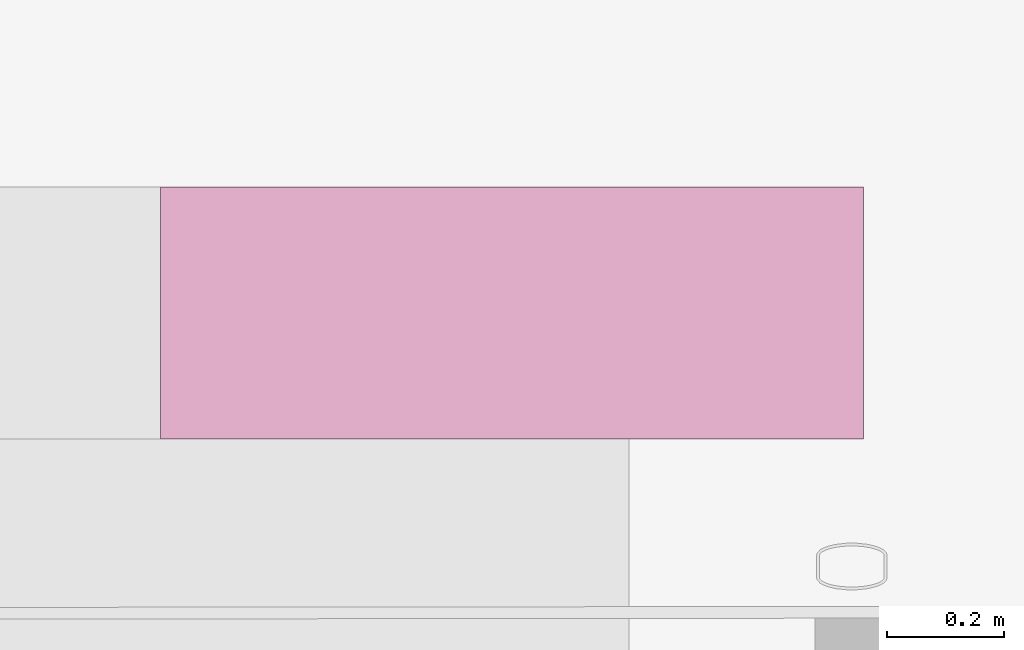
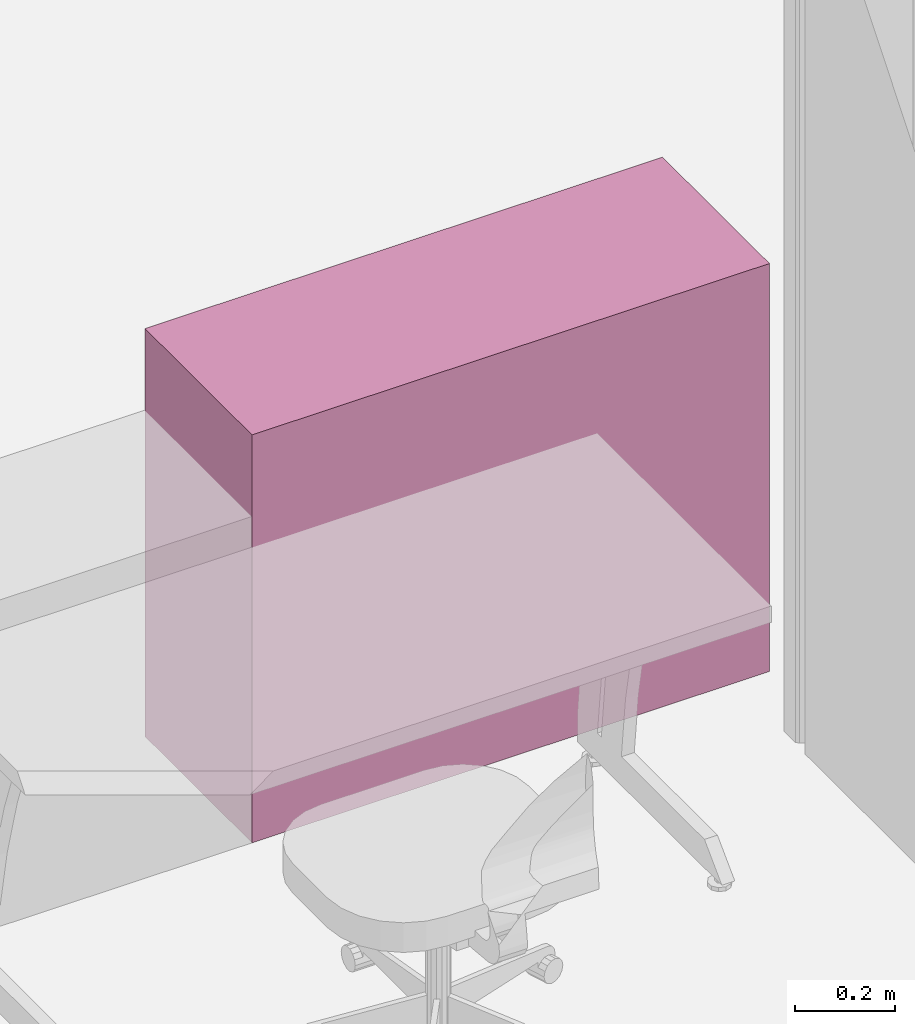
# One storey, part 110 of 128: 1 furnishing.
"""IFC2X3 building model written with IfcOpenShell, lengths in metres."""

from ifc_helpers import new_model, entity, si_unit, converted_unit, derived_unit, direction, frame, origin, origin_2d_with_axis, place, context, subcontext, project, spatial, rectangle, extrude, source, transform, mapped, material, type_object, type_shapes, element, save


model = new_model("IFC2X3")

# Units and contexts
model_context = context("Model", 3, precision=1e-05, world=origin(), true_north=direction((6.123031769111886e-17, 1.0)))
body_context = subcontext(model_context, "Body", "Model", "MODEL_VIEW")
ifc_project = project(units=[si_unit("LENGTHUNIT", "METRE"), si_unit("AREAUNIT", "SQUARE_METRE"), converted_unit("PLANEANGLEUNIT", "DEGREE", entity("IfcPlaneAngleMeasure", 0.017453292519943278), si_unit("PLANEANGLEUNIT", "RADIAN"), dimensions=[0, 0, 0, 0, 0, 0, 0]), derived_unit("THERMALTRANSMITTANCEUNIT", [(si_unit("MASSUNIT", "GRAM", prefix="KILO"), 1), (si_unit("THERMODYNAMICTEMPERATUREUNIT", "KELVIN"), -1), (si_unit("TIMEUNIT", "SECOND"), -3)])], contexts=[model_context])

# Site, building, storey
site_placement = place(None, origin())
site = spatial("IfcSite", under=ifc_project, at=site_placement, Name="Default", CompositionType="ELEMENT")
building_placement = place(site_placement, origin())
building = spatial("IfcBuilding", under=site, at=building_placement, CompositionType="ELEMENT")
storey_placement = place(building_placement, origin())
storey = spatial("IfcBuildingStorey", under=building, at=storey_placement, Name="00_RDC CAF", CompositionType="ELEMENT", Elevation=2.4982504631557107e-13)

# Furnishing
ifc_material = material(Name="ARC - Mo - Blanc")
furniture_type = type_object("IfcFurnitureType", Name="Mo_Armoire_Porte_Coulissante:Mo_Armoire_basse_1200x430x1000mm", AssemblyPlace="NOTDEFINED", material=ifc_material)
shared_shape = source(origin(), body_context, "Body", "SweptSolid", [
    extrude(rectangle(XDim=1.200000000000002, YDim=0.43000000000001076, at=origin_2d_with_axis()), frame((0.04470032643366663, -0.2150000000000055, 0.0), z_axis=(0.0, 0.0, 1.0), x_axis=(-1.0, 0.0, 0.0)), (0.0, 0.0, 1.0), 1.0),
])
type_shapes(furniture_type, [shared_shape])
furnishing_placement = place(storey_placement, frame((42.143292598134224, 130.51423153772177, 0.0), z_axis=(0.0, 0.0, 1.0), x_axis=(-1.0, 0.0, 0.0)))
element("IfcFurnishingElement", 1, at=furnishing_placement, inside=storey, type_object=furniture_type, material=ifc_material, Name="Mo_Armoire_Porte_Coulissante:Mo_Armoire_basse_1200x430x1000mm", ObjectType="Mo_Armoire_Porte_Coulissante:Mo_Armoire_basse_1200x430x1000mm", context=body_context, shape_type="MappedRepresentation", body=[
    mapped(shared_shape, transform((0.0, 0.0, 0.0), scale=1.0)),
])

save(model, "model.ifc")
